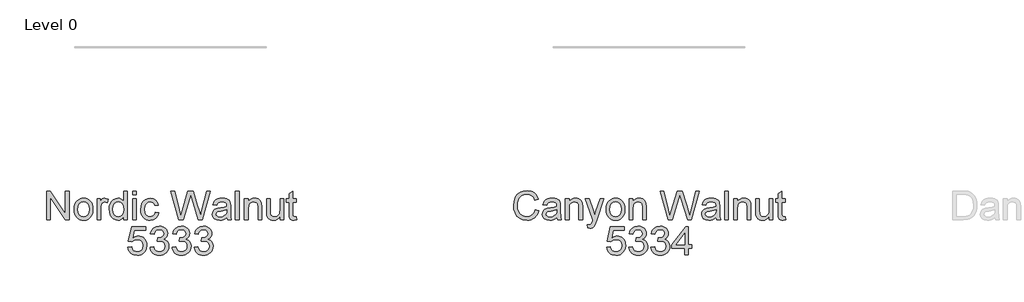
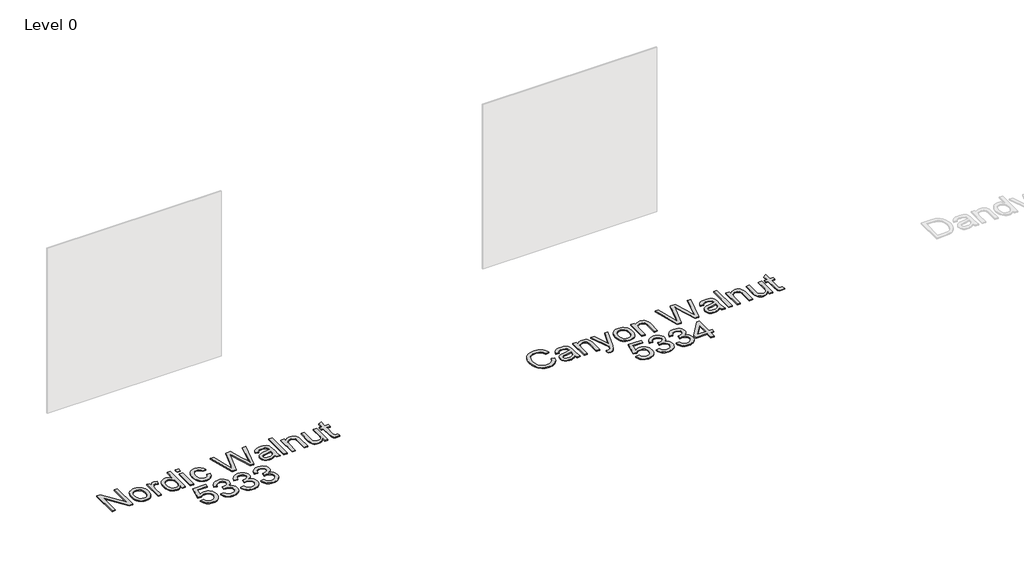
# One storey, part 13 of 16: 2 proxies.
"""IFC4 building model written with IfcOpenShell, lengths in millimetres."""

from ifc_helpers import new_model, si_unit, origin, origin_with_axes, place, context, project, spatial, polyline, outline, extrude, element, save

model = new_model("IFC4")

# Units and contexts
model_context = context("Model", 3, world=origin())
ifc_project = project(units=[si_unit("LENGTHUNIT", "METRE", prefix="MILLI")], contexts=[model_context])

# Site, building, storey
site = spatial("IfcSite", under=ifc_project)
building = spatial("IfcBuilding", under=site)
storey = spatial("IfcBuildingStorey", under=building, Name="Level 0", Elevation=0.0)

# Proxies
placement = place(None, origin())
element("IfcBuildingElementProxy", 1, Name="300mm Arial", ObjectType="300mm Arial", at=placement, inside=storey, context=model_context, shape_type="SweptSolid", body=[
    extrude(outline(polyline([(-743.2482346, -12002.860494), (-743.2482346, -11701.4915635), (-702.9283679, -11701.4915635), (-545.474874, -11940.2469784), (-545.474874, -11701.4915635), (-507.8037576, -11701.4915635), (-507.8037576, -12002.860494), (-548.1236243, -12002.860494), (-705.5771183, -11764.0315027), (-705.5771183, -12002.860494), (-743.2482346, -12002.860494)])), origin_with_axes(), (0.0, 0.0, 1.0), 10.0),
    extrude(outline(polyline([(-456.0059727, -11892.2015898), (-453.9688262, -11863.5389839), (-447.8573865, -11838.8403064), (-437.6716538, -11818.1055575), (-423.411628, -11801.334737), (-409.0550331, -11790.6155754), (-393.2085161, -11782.9590314), (-375.8720771, -11778.3651049), (-357.045716, -11776.8337961), (-336.2626826, -11778.698498), (-317.4708104, -11784.2926036), (-300.6700995, -11793.6161129), (-285.86055, -11806.669026), (-273.7733272, -11823.0098843), (-265.1395966, -11842.1972296), (-259.9593582, -11864.2310619), (-258.2326121, -11889.1113811), (-261.2860327, -11927.1687735), (-270.4462944, -11956.1394806), (-285.4466827, -11977.8353213), (-306.0204833, -11994.0681143), (-330.4570448, -12004.1940662), (-357.045716, -12007.5693835), (-378.1322521, -12005.7115794), (-397.0988682, -12000.1381672), (-413.9455644, -11990.8491468), (-428.6723405, -11977.8445183), (-440.6308046, -11961.3450108), (-449.1725647, -11941.5713536), (-454.2976207, -11918.5235466), (-456.0059727, -11892.2015898)]), holes=[polyline([(-418.3348564, -11892.1280134), (-413.9754548, -11926.2214773), (-400.8972498, -11950.5108861), (-381.2155631, -11965.0514219), (-357.045716, -11969.8982672), (-332.9862335, -11965.0238308), (-313.341335, -11950.4005215), (-300.2631301, -11925.789216), (-295.9037284, -11890.950791), (-300.2907212, -11857.8506085), (-313.4516996, -11833.8922936), (-333.1241893, -11819.3517577), (-357.045716, -11814.5049125), (-381.2155631, -11819.3333636), (-400.8972498, -11833.8187172), (-413.9754548, -11858.0529436), (-418.3348564, -11892.1280134)])]), origin_with_axes(), (0.0, 0.0, 1.0), 10.0),
    extrude(outline(polyline([(-215.8526063, -12002.860494), (-215.8526063, -11781.5426857), (-182.8903795, -11781.5426857), (-182.8903795, -11814.2841833), (-170.7134855, -11795.3014723), (-159.4930846, -11784.1178596), (-148.2358956, -11778.654812), (-135.9486369, -11776.8337961), (-117.1866552, -11779.7400639), (-98.1303678, -11788.4588672), (-110.7119321, -11822.2304343), (-123.9556839, -11816.4362929), (-137.1994357, -11814.5049125), (-148.4474277, -11816.3627165), (-158.4998032, -11821.9361288), (-166.6207983, -11830.8020848), (-172.0746488, -11842.5375205), (-176.6547797, -11863.5803706), (-178.18149, -11886.5362071), (-178.18149, -12002.860494), (-215.8526063, -12002.860494)])), origin_with_axes(), (0.0, 0.0, 1.0), 10.0),
    extrude(outline(polyline([(61.9718765, -12002.860494), (61.9718765, -11967.3230932), (50.7008919, -11984.9308452), (37.0478713, -11997.507811), (21.0128148, -12005.0539904), (2.5957225, -12007.5693835), (-21.7580656, -12003.9273518), (-44.0517145, -11993.0012565), (-62.9240609, -11975.5544529), (-77.0139413, -11952.350296), (-85.7879269, -11924.3268851), (-88.7125887, -11892.422319), (-86.0178531, -11860.9132261), (-77.9336463, -11832.4575538), (-64.4691653, -11808.6739828), (-45.6336071, -11791.181194), (-22.8525146, -11780.4206456), (2.4485697, -11776.8337961), (20.8794576, -11779.3997731), (37.17663, -11787.0977038), (50.9905989, -11798.8975188), (61.9718765, -11813.7691485), (61.9718765, -11701.4915635), (99.6429928, -11701.4915635), (99.6429928, -12002.860494), (61.9718765, -12002.860494)]), holes=[polyline([(-51.0414724, -11892.2751662), (-46.7924354, -11926.350236), (-34.0453243, -11950.5844625), (-15.5224658, -11965.069816), (6.0538132, -11969.8982672), (27.6208952, -11965.2905452), (45.6747041, -11951.4673793), (57.8975834, -11928.1712519), (61.9718765, -11895.1446458), (57.824007, -11859.037028), (45.3803985, -11834.0026582), (26.8667371, -11819.3793489), (4.5087088, -11814.5049125), (-17.2882994, -11819.1862108), (-35.1489702, -11833.230106), (-47.0683469, -11857.3539678), (-51.0414724, -11892.2751662)])]), origin_with_axes(), (0.0, 0.0, 1.0), 10.0),
    extrude(outline(polyline([(156.1496672, -11739.1626798), (156.1496672, -11701.4915635), (193.8207836, -11701.4915635), (193.8207836, -11739.1626798), (156.1496672, -11739.1626798)])), origin_with_axes(), (0.0, 0.0, 1.0), 10.0),
    extrude(outline(polyline([(156.1496672, -12002.860494), (156.1496672, -11781.5426857), (193.8207836, -11781.5426857), (193.8207836, -12002.860494), (156.1496672, -12002.860494)])), origin_with_axes(), (0.0, 0.0, 1.0), 10.0),
    extrude(outline(polyline([(391.5941442, -11922.8093718), (429.2652605, -11927.5182614), (418.7622295, -11961.0231141), (399.0253605, -11986.3425924), (371.9124574, -12002.2626857), (339.2813244, -12007.5693835), (318.1534016, -12005.7184772), (299.2097781, -12000.1657584), (282.450454, -11990.9112269), (267.8754292, -11977.9548829), (256.0779135, -11961.5404481), (247.6511165, -11941.9116444), (242.5950383, -11919.0684718), (240.9096789, -11893.0109302), (243.7883555, -11859.4876834), (252.4243854, -11830.4342028), (266.9557242, -11806.9725286), (287.5203277, -11790.2247008), (312.1224362, -11780.1815223), (338.7662897, -11776.8337961), (370.5972793, -11781.4323211), (396.0455163, -11795.2278959), (414.3016603, -11817.4847566), (424.5563709, -11847.4671392), (386.8852546, -11852.1760288), (380.0518466, -11835.7409006), (369.4108599, -11823.9594797), (355.5509057, -11816.8685543), (339.0605952, -11814.5049125), (314.7160042, -11819.1586197), (295.3930024, -11833.1197414), (282.783847, -11857.1424357), (278.5807952, -11891.9808606), (282.6918765, -11927.2883351), (295.0251204, -11951.3938029), (313.9986343, -11965.2721511), (338.0305257, -11969.8982672), (357.5374685, -11967.0103936), (373.5311382, -11958.3467726), (385.1654063, -11943.6866751), (391.5941442, -11922.8093718)])), origin_with_axes(), (0.0, 0.0, 1.0), 10.0),
    extrude(outline(polyline([(638.5901157, -12002.860494), (556.405278, -11701.4915635), (595.2536167, -11701.4915635), (642.9311233, -11899.5592297), (657.6464031, -11960.7012173), (673.3917525, -11906.622564), (733.1357885, -11701.4915635), (789.1274281, -11701.4915635), (832.5375036, -11850.189466), (851.1339384, -11905.3717653), (864.8375428, -11960.7012173), (879.1113642, -11901.3250633), (927.2303291, -11701.4915635), (966.0786678, -11701.4915635), (883.8202537, -12002.860494), (843.5739634, -12002.860494), (771.3219396, -11770.359073), (761.2419729, -11737.9118811), (749.9112075, -11776.9809489), (684.0603303, -12002.860494), (638.5901157, -12002.860494)])), origin_with_axes(), (0.0, 0.0, 1.0), 10.0),
    extrude(outline(polyline([(1140.3075807, -11974.6071568), (1122.3089541, -11990.0398064), (1103.7768986, -12000.1381672), (1084.2883499, -12005.7115794), (1063.4202438, -12007.5693835), (1031.938742, -12003.0996173), (1008.7161911, -11989.6903186), (994.3963844, -11969.3280501), (989.6231155, -11943.9993748), (991.4257373, -11928.3827841), (996.8336026, -11914.2009331), (1005.1753269, -11902.0608273), (1015.7795254, -11892.5694718), (1042.1566644, -11880.2086368), (1074.7510092, -11874.5432541), (1113.2682541, -11868.5835657), (1140.0868515, -11861.5938078), (1140.3075807, -11853.2060983), (1137.7140127, -11836.3938912), (1129.9333085, -11825.3942195), (1112.5324901, -11817.2272392), (1088.2890666, -11814.5049125), (1065.8482649, -11816.3167313), (1050.1764919, -11821.7521878), (1039.48952, -11831.8045633), (1032.0031214, -11847.4671392), (994.3320051, -11842.7582497), (1000.8711075, -11822.156858), (1010.6291774, -11805.9700502), (1024.5167228, -11793.590821), (1043.4442514, -11784.4121652), (1066.593226, -11778.7283884), (1093.145109, -11776.8337961), (1118.6117401, -11778.5076592), (1138.7992646, -11783.5292485), (1154.0203821, -11791.0800264), (1164.5877924, -11800.3414556), (1171.5959444, -11811.7917827), (1176.1392871, -11825.9092543), (1177.9786971, -11858.8714811), (1177.9786971, -11905.7396473), (1179.8916834, -11971.1858542), (1187.3964761, -12002.860494), (1149.7253598, -12002.860494), (1140.3075807, -11974.6071568)]), holes=[polyline([(1140.3075807, -11899.2649241), (1079.5334751, -11910.8164188), (1047.1230714, -11916.9232599), (1032.4445798, -11926.8560738), (1027.2942318, -11941.3506244), (1030.099332, -11952.5526311), (1038.5146327, -11961.7312869), (1052.3561927, -11967.8565221), (1071.4400712, -11969.8982672), (1091.673581, -11967.64499), (1109.5526459, -11960.8851583), (1124.0471966, -11950.9247533), (1134.1271632, -11939.069756), (1138.5969295, -11926.8560738), (1140.0868515, -11909.933502), (1140.3075807, -11899.2649241)])]), origin_with_axes(), (0.0, 0.0, 1.0), 10.0),
    extrude(outline(polyline([(1229.776482, -12002.860494), (1229.776482, -11701.4915635), (1267.4475983, -11701.4915635), (1267.4475983, -12002.860494), (1229.776482, -12002.860494)])), origin_with_axes(), (0.0, 0.0, 1.0), 10.0),
    extrude(outline(polyline([(1323.9542727, -12002.860494), (1323.9542727, -11781.5426857), (1361.625389, -11781.5426857), (1361.625389, -11812.4447733), (1374.712791, -11796.8649708), (1390.4305493, -11785.7365404), (1408.7786638, -11779.0594822), (1429.7571345, -11776.8337961), (1448.3259783, -11778.6272209), (1465.3313235, -11784.0074951), (1479.5131744, -11792.303234), (1489.6115352, -11802.8430532), (1500.9055124, -11830.5445674), (1502.8920752, -11866.964885), (1502.8920752, -12002.860494), (1465.2209589, -12002.860494), (1465.2209589, -11872.0416565), (1460.8799513, -11838.7115477), (1454.8742778, -11828.7879309), (1445.5392721, -11821.0900002), (1433.5739102, -11816.1511844), (1419.6771679, -11814.5049125), (1397.6134452, -11818.2021265), (1378.8054782, -11829.2937687), (1371.2891892, -11838.3482643), (1365.9204113, -11850.7228949), (1361.625389, -11885.4325611), (1361.625389, -12002.860494), (1323.9542727, -12002.860494)])), origin_with_axes(), (0.0, 0.0, 1.0), 10.0),
    extrude(outline(polyline([(1695.9565463, -12002.860494), (1695.9565463, -11964.8214957), (1682.3265183, -11983.5236966), (1666.4524102, -11996.8824116), (1648.334222, -12004.8976405), (1627.9719536, -12007.5693835), (1609.623839, -12005.6931853), (1592.5449174, -12000.0645908), (1578.2159137, -11991.6033049), (1568.1175529, -11981.2290327), (1556.8971521, -11953.4907302), (1554.6898601, -11918.4683643), (1554.6898601, -11781.5426857), (1592.3609764, -11781.5426857), (1592.3609764, -11900.7364521), (1594.6418448, -11939.1433324), (1600.1324836, -11951.9548229), (1609.5410656, -11961.6944987), (1622.2421915, -11967.8473251), (1637.6104618, -11969.8982672), (1653.861649, -11967.8013398), (1669.0643724, -11961.5105577), (1681.5999514, -11951.605335), (1689.8497051, -11938.6650858), (1694.429836, -11920.9423707), (1695.9565463, -11896.6897502), (1695.9565463, -11781.5426857), (1733.6276626, -11781.5426857), (1733.6276626, -12002.860494), (1695.9565463, -12002.860494)])), origin_with_axes(), (0.0, 0.0, 1.0), 10.0),
    extrude(outline(polyline([(1865.4765696, -11971.4433716), (1870.1854592, -12003.96414), (1842.0056983, -12007.5693835), (1823.9242983, -12006.005885), (1810.4414232, -12001.3153896), (1800.9132795, -11994.0865084), (1794.6960738, -11984.9078526), (1791.2747712, -11969.1441091), (1790.134337, -11942.1599648), (1790.134337, -11819.213802), (1761.8809998, -11819.213802), (1761.8809998, -11781.5426857), (1790.134337, -11781.5426857), (1790.134337, -11727.758338), (1827.8054533, -11705.6118419), (1827.8054533, -11781.5426857), (1865.4765696, -11781.5426857), (1865.4765696, -11819.213802), (1827.8054533, -11819.213802), (1827.8054533, -11941.0563188), (1829.7920161, -11960.4804881), (1836.229951, -11967.3598814), (1849.0690327, -11969.8982672), (1865.4765696, -11971.4433716)])), origin_with_axes(), (0.0, 0.0, 1.0), 10.0),
    extrude(outline(polyline([(106.7063271, -12288.7338254), (144.3774434, -12284.0249358), (151.2936249, -12306.6404815), (163.3601544, -12322.8364863), (180.5218494, -12332.5761621), (202.7235278, -12335.8227207), (229.7260663, -12331.3069693), (249.959576, -12317.7597148), (262.5963226, -12296.7444558), (266.8085714, -12269.8246908), (262.863037, -12244.4776213), (251.0264338, -12225.0902402), (231.2067913, -12212.7845875), (203.312139, -12208.6827032), (185.0376009, -12210.3197781), (170.2395477, -12215.2310027), (149.0863329, -12232.2271509), (111.4152166, -12227.5182614), (144.3774434, -12072.1249066), (290.3530191, -12072.1249066), (290.3530191, -12109.7960229), (174.8380726, -12109.7960229), (158.7248412, -12192.790201), (185.6354092, -12176.4562404), (213.8335641, -12171.0115869), (232.1793793, -12172.6992456), (249.030674, -12177.7622215), (264.387448, -12186.2005148), (278.2497014, -12198.0141254), (289.7253204, -12212.4810848), (297.9221911, -12228.8794248), (302.8403136, -12247.2091452), (304.4796877, -12267.470246), (298.5751817, -12305.1413624), (291.1945492, -12321.9351754), (280.8616636, -12337.3678251), (265.2082847, -12353.1729553), (246.9429437, -12364.4623341), (226.0656404, -12371.2359613), (202.576375, -12373.4938371), (165.5766434, -12367.6904986), (149.8979726, -12360.4363255), (136.1000985, -12350.2804832), (124.619881, -12337.7288093), (115.8941799, -12323.2871418), (106.7063271, -12288.7338254)])), origin_with_axes(), (0.0, 0.0, 1.0), 10.0),
    extrude(outline(polyline([(337.4419145, -12288.7338254), (375.1130308, -12284.0249358), (383.5467255, -12307.6981422), (395.8983635, -12323.6826149), (412.77495, -12332.7876943), (434.7834904, -12335.8227207), (460.6088065, -12331.6472601), (480.5480106, -12319.1208782), (493.2951217, -12300.4324728), (497.5441588, -12277.7709419), (493.3319099, -12256.2590422), (480.6951634, -12238.8122386), (461.5652996, -12227.2515469), (437.8736992, -12223.397983), (411.4597719, -12227.5182614), (415.6536266, -12189.8471451), (421.6868914, -12190.2886035), (444.2564518, -12187.5846708), (464.4347792, -12179.4728728), (478.6718124, -12165.7508744), (483.4174902, -12146.2163404), (479.9777935, -12129.9467592), (469.6587035, -12116.7489926), (453.9133541, -12108.0025982), (434.1948792, -12105.0871334), (414.4396161, -12108.0301893), (398.2895965, -12116.8593572), (386.4989785, -12131.574637), (379.8219203, -12152.1760288), (342.150804, -12147.4671392), (353.2424462, -12113.6403898), (372.9793152, -12088.3852908), (399.9818537, -12072.6583355), (432.870504, -12067.4160171), (456.5529075, -12070.0003881), (478.3039304, -12077.7535011), (496.6428479, -12089.9855775), (510.0889348, -12106.0068384), (518.3386885, -12124.4653175), (521.0886065, -12144.0090485), (518.4766443, -12162.2192072), (510.6407578, -12178.7371088), (497.6913116, -12192.8085951), (479.7386702, -12203.6795081), (503.3199061, -12213.2076518), (520.7943009, -12229.4312477), (531.6100315, -12251.4673793), (535.2152751, -12278.4331295), (533.4126533, -12297.5445992), (528.004788, -12315.1477526), (518.9916791, -12331.2425899), (506.3733267, -12345.829111), (491.0004578, -12357.9324287), (473.7237996, -12366.5776555), (454.5433521, -12371.7647917), (433.4591152, -12373.4938371), (414.4028279, -12372.0177105), (397.0387977, -12367.589331), (381.3670247, -12360.2086985), (367.3875089, -12349.875813), (355.6658688, -12337.1976797), (346.767723, -12322.781304), (340.6930716, -12306.6266859), (337.4419145, -12288.7338254)])), origin_with_axes(), (0.0, 0.0, 1.0), 10.0),
    extrude(outline(polyline([(568.1775018, -12288.7338254), (605.8486182, -12284.0249358), (614.2823129, -12307.6981422), (626.6339509, -12323.6826149), (643.5105374, -12332.7876943), (665.5190778, -12335.8227207), (691.3443938, -12331.6472601), (711.283598, -12319.1208782), (724.0307091, -12300.4324728), (728.2797461, -12277.7709419), (724.0674973, -12256.2590422), (711.4307508, -12238.8122386), (692.300887, -12227.2515469), (668.6092865, -12223.397983), (642.1953593, -12227.5182614), (646.389214, -12189.8471451), (652.4224787, -12190.2886035), (674.9920391, -12187.5846708), (695.1703666, -12179.4728728), (709.4073998, -12165.7508744), (714.1530775, -12146.2163404), (710.7133809, -12129.9467592), (700.3942909, -12116.7489926), (684.6489415, -12108.0025982), (664.9304666, -12105.0871334), (645.1752034, -12108.0301893), (629.0251838, -12116.8593572), (617.2345659, -12131.574637), (610.5575077, -12152.1760288), (572.8863914, -12147.4671392), (583.9780335, -12113.6403898), (603.7149026, -12088.3852908), (630.717441, -12072.6583355), (663.6060914, -12067.4160171), (687.2884948, -12070.0003881), (709.0395178, -12077.7535011), (727.3784353, -12089.9855775), (740.8245222, -12106.0068384), (749.0742759, -12124.4653175), (751.8241938, -12144.0090485), (749.2122317, -12162.2192072), (741.3763452, -12178.7371088), (728.4268989, -12192.8085951), (710.4742576, -12203.6795081), (734.0554935, -12213.2076518), (751.5298882, -12229.4312477), (762.3456189, -12251.4673793), (765.9508625, -12278.4331295), (764.1482407, -12297.5445992), (758.7403753, -12315.1477526), (749.7272665, -12331.2425899), (737.108914, -12345.829111), (721.7360452, -12357.9324287), (704.459387, -12366.5776555), (685.2789394, -12371.7647917), (664.1947026, -12373.4938371), (645.1384152, -12372.0177105), (627.7743851, -12367.589331), (612.1026121, -12360.2086985), (598.1230963, -12349.875813), (586.4014562, -12337.1976797), (577.5033104, -12322.781304), (571.428659, -12306.6266859), (568.1775018, -12288.7338254)])), origin_with_axes(), (0.0, 0.0, 1.0), 10.0),
    extrude(outline(polyline([(798.9130892, -12288.7338254), (836.5842055, -12284.0249358), (845.0179003, -12307.6981422), (857.3695383, -12323.6826149), (874.2461248, -12332.7876943), (896.2546651, -12335.8227207), (922.0799812, -12331.6472601), (942.0191853, -12319.1208782), (954.7662965, -12300.4324728), (959.0153335, -12277.7709419), (954.8030847, -12256.2590422), (942.1663381, -12238.8122386), (923.0364744, -12227.2515469), (899.3448739, -12223.397983), (872.9309467, -12227.5182614), (877.1248014, -12189.8471451), (883.1580661, -12190.2886035), (905.7276265, -12187.5846708), (925.905954, -12179.4728728), (940.1429872, -12165.7508744), (944.8886649, -12146.2163404), (941.4489683, -12129.9467592), (931.1298783, -12116.7489926), (915.3845289, -12108.0025982), (895.666054, -12105.0871334), (875.9107908, -12108.0301893), (859.7607712, -12116.8593572), (847.9701533, -12131.574637), (841.2930951, -12152.1760288), (803.6219788, -12147.4671392), (814.7136209, -12113.6403898), (834.45049, -12088.3852908), (861.4530284, -12072.6583355), (894.3416788, -12067.4160171), (918.0240822, -12070.0003881), (939.7751052, -12077.7535011), (958.1140226, -12089.9855775), (971.5601096, -12106.0068384), (979.8098633, -12124.4653175), (982.5597812, -12144.0090485), (979.947819, -12162.2192072), (972.1119325, -12178.7371088), (959.1624863, -12192.8085951), (941.209845, -12203.6795081), (964.7910808, -12213.2076518), (982.2654756, -12229.4312477), (993.0812063, -12251.4673793), (996.6864498, -12278.4331295), (994.8838281, -12297.5445992), (989.4759627, -12315.1477526), (980.4628538, -12331.2425899), (967.8445014, -12345.829111), (952.4716325, -12357.9324287), (935.1949743, -12366.5776555), (916.0145268, -12371.7647917), (894.93029, -12373.4938371), (875.8740026, -12372.0177105), (858.5099724, -12367.589331), (842.8381994, -12360.2086985), (828.8586836, -12349.875813), (817.1370436, -12337.1976797), (808.2388978, -12322.781304), (802.1642464, -12306.6266859), (798.9130892, -12288.7338254)])), origin_with_axes(), (0.0, 0.0, 1.0), 10.0),
])
element("IfcBuildingElementProxy", 2, Name="300mm Arial", ObjectType="300mm Arial", at=placement, inside=storey, context=model_context, shape_type="SweptSolid", body=[
    extrude(outline(polyline([(4360.3473353, -11895.733257), (4398.0184516, -11905.4453417), (4390.5642427, -11928.872527), (4380.6360273, -11949.3428607), (4368.2338056, -11966.856343), (4353.3575774, -11981.4129737), (4336.3430351, -11992.856403), (4317.525871, -12001.0302811), (4296.9060852, -12005.9346079), (4274.4836776, -12007.5693835), (4230.7884936, -12002.6213707), (4196.0880244, -11987.7773322), (4169.4901562, -11963.5523028), (4150.102775, -11930.4613173), (4138.2661718, -11891.5577963), (4134.3206374, -11849.8951604), (4138.7812066, -11805.9516561), (4152.1629142, -11768.0046283), (4173.7667844, -11737.2588905), (4202.8938413, -11714.9192564), (4237.4379607, -11701.3168196), (4275.293018, -11696.782674), (4316.596969, -11702.6503918), (4334.5657052, -11709.9850391), (4350.7456152, -11720.2535453), (4364.8699846, -11733.1845974), (4376.6720988, -11748.5068825), (4393.309562, -11786.3251516), (4355.6384457, -11795.3014723), (4342.5786349, -11767.8298843), (4324.7363581, -11748.9851291), (4301.8908862, -11738.086625), (4273.82149, -11734.4537903), (4241.4662685, -11738.4820981), (4214.8867944, -11750.5670217), (4194.717664, -11769.439368), (4181.5934738, -11793.8299443), (4174.3921838, -11821.4026999), (4171.9917538, -11849.821584), (4174.8336422, -11884.6232207), (4183.3593074, -11914.7159679), (4197.8906462, -11938.9501944), (4218.7495553, -11956.1762688), (4243.756334, -11966.4677676), (4270.7312813, -11969.8982672), (4302.1759948, -11965.2261659), (4328.3783899, -11951.2098619), (4348.1612442, -11927.996508), (4360.3473353, -11895.733257)])), origin_with_axes(), (0.0, 0.0, 1.0), 10.0),
    extrude(outline(polyline([(4586.3740331, -11974.6071568), (4568.3754065, -11990.0398064), (4549.843351, -12000.1381672), (4530.3548023, -12005.7115794), (4509.4866961, -12007.5693835), (4478.0051944, -12003.0996173), (4454.7826434, -11989.6903186), (4440.4628368, -11969.3280501), (4435.6895679, -11943.9993748), (4437.4921897, -11928.3827841), (4442.900055, -11914.2009331), (4451.2417792, -11902.0608273), (4461.8459778, -11892.5694718), (4488.2231168, -11880.2086368), (4520.8174616, -11874.5432541), (4559.3347065, -11868.5835657), (4586.1533039, -11861.5938078), (4586.3740331, -11853.2060983), (4583.7804651, -11836.3938912), (4575.9997609, -11825.3942195), (4558.5989425, -11817.2272392), (4534.355519, -11814.5049125), (4511.9147173, -11816.3167313), (4496.2429443, -11821.7521878), (4485.5559723, -11831.8045633), (4478.0695737, -11847.4671392), (4440.3984574, -11842.7582497), (4446.9375599, -11822.156858), (4456.6956298, -11805.9700502), (4470.5831751, -11793.590821), (4489.5107038, -11784.4121652), (4512.6596783, -11778.7283884), (4539.2115613, -11776.8337961), (4564.6781925, -11778.5076592), (4584.8657169, -11783.5292485), (4600.0868345, -11791.0800264), (4610.6542448, -11800.3414556), (4617.6623968, -11811.7917827), (4622.2057394, -11825.9092543), (4624.0451494, -11858.8714811), (4624.0451494, -11905.7396473), (4625.9581358, -11971.1858542), (4633.4629285, -12002.860494), (4595.7918122, -12002.860494), (4586.3740331, -11974.6071568)]), holes=[polyline([(4586.3740331, -11899.2649241), (4525.5999275, -11910.8164188), (4493.1895237, -11916.9232599), (4478.5110321, -11926.8560738), (4473.3606842, -11941.3506244), (4476.1657844, -11952.5526311), (4484.5810851, -11961.7312869), (4498.4226451, -11967.8565221), (4517.5065236, -11969.8982672), (4537.7400334, -11967.64499), (4555.6190983, -11960.8851583), (4570.1136489, -11950.9247533), (4580.1936156, -11939.069756), (4584.6633818, -11926.8560738), (4586.1533039, -11909.933502), (4586.3740331, -11899.2649241)])]), origin_with_axes(), (0.0, 0.0, 1.0), 10.0),
    extrude(outline(polyline([(4675.8429343, -12002.860494), (4675.8429343, -11781.5426857), (4713.5140507, -11781.5426857), (4713.5140507, -11812.4447733), (4726.6014526, -11796.8649708), (4742.3192109, -11785.7365404), (4760.6673254, -11779.0594822), (4781.6457962, -11776.8337961), (4800.2146399, -11778.6272209), (4817.2199851, -11784.0074951), (4831.401836, -11792.303234), (4841.5001968, -11802.8430532), (4852.794174, -11830.5445674), (4854.7807368, -11866.964885), (4854.7807368, -12002.860494), (4817.1096205, -12002.860494), (4817.1096205, -11872.0416565), (4812.7686129, -11838.7115477), (4806.7629394, -11828.7879309), (4797.4279338, -11821.0900002), (4785.4625719, -11816.1511844), (4771.5658295, -11814.5049125), (4749.5021068, -11818.2021265), (4730.6941398, -11829.2937687), (4723.1778508, -11838.3482643), (4717.8090729, -11850.7228949), (4713.5140507, -11885.4325611), (4713.5140507, -12002.860494), (4675.8429343, -12002.860494)])), origin_with_axes(), (0.0, 0.0, 1.0), 10.0),
    extrude(outline(polyline([(4906.5785217, -12087.6205057), (4901.8696322, -12051.3473409), (4920.9994959, -12054.6582789), (4938.8785609, -12050.5012124), (4949.8414444, -12038.9129295), (4960.1421402, -12011.1746271), (4963.0851962, -12002.0511536), (4883.034074, -11781.5426857), (4922.7653295, -11781.5426857), (4965.2189118, -11904.4152721), (4980.007768, -11953.5643066), (4994.7966242, -11910.1542312), (5038.4274288, -11781.5426857), (5077.8643787, -11781.5426857), (5000.8298889, -12008.1579947), (4980.8171083, -12057.3070293), (4970.5715948, -12072.9971964), (4958.9649178, -12083.8681093), (4945.4820427, -12090.2140737), (4929.6079346, -12092.3293952), (4906.5785217, -12087.6205057)])), origin_with_axes(), (0.0, 0.0, 1.0), 10.0),
    extrude(outline(polyline([(5099.6429928, -11892.2015898), (5101.6801393, -11863.5389839), (5107.791579, -11838.8403064), (5117.9773117, -11818.1055575), (5132.2373376, -11801.334737), (5146.5939324, -11790.6155754), (5162.4404494, -11782.9590314), (5179.7768884, -11778.3651049), (5198.6032495, -11776.8337961), (5219.386283, -11778.698498), (5238.1781551, -11784.2926036), (5254.978866, -11793.6161129), (5269.7884156, -11806.669026), (5281.8756384, -11823.0098843), (5290.5093689, -11842.1972296), (5295.6896073, -11864.2310619), (5297.4163534, -11889.1113811), (5294.3629328, -11927.1687735), (5285.2026712, -11956.1394806), (5270.2022828, -11977.8353213), (5249.6284822, -11994.0681143), (5225.1919207, -12004.1940662), (5198.6032495, -12007.5693835), (5177.5167134, -12005.7115794), (5158.5500973, -12000.1381672), (5141.7034011, -11990.8491468), (5126.976625, -11977.8445183), (5115.0181609, -11961.3450108), (5106.4764008, -11941.5713536), (5101.3513448, -11918.5235466), (5099.6429928, -11892.2015898)]), holes=[polyline([(5137.3141091, -11892.1280134), (5141.6735107, -11926.2214773), (5154.7517157, -11950.5108861), (5174.4334024, -11965.0514219), (5198.6032495, -11969.8982672), (5222.662732, -11965.0238308), (5242.3076305, -11950.4005215), (5255.3858354, -11925.789216), (5259.7452371, -11890.950791), (5255.3582443, -11857.8506085), (5242.1972659, -11833.8922936), (5222.5247762, -11819.3517577), (5198.6032495, -11814.5049125), (5174.4334024, -11819.3333636), (5154.7517157, -11833.8187172), (5141.6735107, -11858.0529436), (5137.3141091, -11892.1280134)])]), origin_with_axes(), (0.0, 0.0, 1.0), 10.0),
    extrude(outline(polyline([(5339.7963592, -12002.860494), (5339.7963592, -11781.5426857), (5377.4674755, -11781.5426857), (5377.4674755, -11812.4447733), (5390.5548775, -11796.8649708), (5406.2726358, -11785.7365404), (5424.6207503, -11779.0594822), (5445.5992211, -11776.8337961), (5464.1680648, -11778.6272209), (5481.17341, -11784.0074951), (5495.3552609, -11792.303234), (5505.4536217, -11802.8430532), (5516.7475989, -11830.5445674), (5518.7341617, -11866.964885), (5518.7341617, -12002.860494), (5481.0630454, -12002.860494), (5481.0630454, -11872.0416565), (5476.7220378, -11838.7115477), (5470.7163643, -11828.7879309), (5461.3813586, -11821.0900002), (5449.4159968, -11816.1511844), (5435.5192544, -11814.5049125), (5413.4555317, -11818.2021265), (5394.6475647, -11829.2937687), (5387.1312757, -11838.3482643), (5381.7624978, -11850.7228949), (5377.4674755, -11885.4325611), (5377.4674755, -12002.860494), (5339.7963592, -12002.860494)])), origin_with_axes(), (0.0, 0.0, 1.0), 10.0),
    extrude(outline(polyline([(5746.8945751, -12002.860494), (5664.7097374, -11701.4915635), (5703.5580761, -11701.4915635), (5751.2355826, -11899.5592297), (5765.9508625, -11960.7012173), (5781.6962118, -11906.622564), (5841.4402479, -11701.4915635), (5897.4318875, -11701.4915635), (5940.841963, -11850.189466), (5959.4383978, -11905.3717653), (5973.1420021, -11960.7012173), (5987.4158235, -11901.3250633), (6035.5347885, -11701.4915635), (6074.3831272, -11701.4915635), (5992.1247131, -12002.860494), (5951.8784228, -12002.860494), (5879.626399, -11770.359073), (5869.5464323, -11737.9118811), (5858.2156668, -11776.9809489), (5792.3647897, -12002.860494), (5746.8945751, -12002.860494)])), origin_with_axes(), (0.0, 0.0, 1.0), 10.0),
    extrude(outline(polyline([(6248.6120401, -11974.6071568), (6230.6134135, -11990.0398064), (6212.081358, -12000.1381672), (6192.5928093, -12005.7115794), (6171.7247031, -12007.5693835), (6140.2432014, -12003.0996173), (6117.0206504, -11989.6903186), (6102.7008438, -11969.3280501), (6097.9275749, -11943.9993748), (6099.7301967, -11928.3827841), (6105.138062, -11914.2009331), (6113.4797862, -11902.0608273), (6124.0839848, -11892.5694718), (6150.4611238, -11880.2086368), (6183.0554686, -11874.5432541), (6221.5727135, -11868.5835657), (6248.3913109, -11861.5938078), (6248.6120401, -11853.2060983), (6246.0184721, -11836.3938912), (6238.2377679, -11825.3942195), (6220.8369495, -11817.2272392), (6196.593526, -11814.5049125), (6174.1527243, -11816.3167313), (6158.4809513, -11821.7521878), (6147.7939793, -11831.8045633), (6140.3075807, -11847.4671392), (6102.6364644, -11842.7582497), (6109.1755669, -11822.156858), (6118.9336368, -11805.9700502), (6132.8211821, -11793.590821), (6151.7487108, -11784.4121652), (6174.8976853, -11778.7283884), (6201.4495683, -11776.8337961), (6226.9161995, -11778.5076592), (6247.1037239, -11783.5292485), (6262.3248415, -11791.0800264), (6272.8922518, -11800.3414556), (6279.9004038, -11811.7917827), (6284.4437465, -11825.9092543), (6286.2831564, -11858.8714811), (6286.2831564, -11905.7396473), (6288.1961428, -11971.1858542), (6295.7009355, -12002.860494), (6258.0298192, -12002.860494), (6248.6120401, -11974.6071568)]), holes=[polyline([(6248.6120401, -11899.2649241), (6187.8379345, -11910.8164188), (6155.4275307, -11916.9232599), (6140.7490391, -11926.8560738), (6135.5986912, -11941.3506244), (6138.4037914, -11952.5526311), (6146.8190921, -11961.7312869), (6160.6606521, -11967.8565221), (6179.7445306, -11969.8982672), (6199.9780404, -11967.64499), (6217.8571053, -11960.8851583), (6232.3516559, -11950.9247533), (6242.4316226, -11939.069756), (6246.9013888, -11926.8560738), (6248.3913109, -11909.933502), (6248.6120401, -11899.2649241)])]), origin_with_axes(), (0.0, 0.0, 1.0), 10.0),
    extrude(outline(polyline([(6338.0809414, -12002.860494), (6338.0809414, -11701.4915635), (6375.7520577, -11701.4915635), (6375.7520577, -12002.860494), (6338.0809414, -12002.860494)])), origin_with_axes(), (0.0, 0.0, 1.0), 10.0),
    extrude(outline(polyline([(6432.2587321, -12002.860494), (6432.2587321, -11781.5426857), (6469.9298484, -11781.5426857), (6469.9298484, -11812.4447733), (6483.0172504, -11796.8649708), (6498.7350086, -11785.7365404), (6517.0831232, -11779.0594822), (6538.0615939, -11776.8337961), (6556.6304376, -11778.6272209), (6573.6357829, -11784.0074951), (6587.8176338, -11792.303234), (6597.9159945, -11802.8430532), (6609.2099718, -11830.5445674), (6611.1965346, -11866.964885), (6611.1965346, -12002.860494), (6573.5254183, -12002.860494), (6573.5254183, -11872.0416565), (6569.1844107, -11838.7115477), (6563.1787372, -11828.7879309), (6553.8437315, -11821.0900002), (6541.8783696, -11816.1511844), (6527.9816273, -11814.5049125), (6505.9179046, -11818.2021265), (6487.1099376, -11829.2937687), (6479.5936486, -11838.3482643), (6474.2248707, -11850.7228949), (6469.9298484, -11885.4325611), (6469.9298484, -12002.860494), (6432.2587321, -12002.860494)])), origin_with_axes(), (0.0, 0.0, 1.0), 10.0),
    extrude(outline(polyline([(6804.2610056, -12002.860494), (6804.2610056, -11964.8214957), (6790.6309777, -11983.5236966), (6774.7568696, -11996.8824116), (6756.6386814, -12004.8976405), (6736.2764129, -12007.5693835), (6717.9282984, -12005.6931853), (6700.8493768, -12000.0645908), (6686.5203731, -11991.6033049), (6676.4220123, -11981.2290327), (6665.2016115, -11953.4907302), (6662.9943195, -11918.4683643), (6662.9943195, -11781.5426857), (6700.6654358, -11781.5426857), (6700.6654358, -11900.7364521), (6702.9463042, -11939.1433324), (6708.4369429, -11951.9548229), (6717.845525, -11961.6944987), (6730.5466509, -11967.8473251), (6745.9149212, -11969.8982672), (6762.1661083, -11967.8013398), (6777.3688318, -11961.5105577), (6789.9044108, -11951.605335), (6798.1541645, -11938.6650858), (6802.7342954, -11920.9423707), (6804.2610056, -11896.6897502), (6804.2610056, -11781.5426857), (6841.9321219, -11781.5426857), (6841.9321219, -12002.860494), (6804.2610056, -12002.860494)])), origin_with_axes(), (0.0, 0.0, 1.0), 10.0),
    extrude(outline(polyline([(6973.781029, -11971.4433716), (6978.4899186, -12003.96414), (6950.3101577, -12007.5693835), (6932.2287577, -12006.005885), (6918.7458825, -12001.3153896), (6909.2177389, -11994.0865084), (6903.0005331, -11984.9078526), (6899.5792306, -11969.1441091), (6898.4387964, -11942.1599648), (6898.4387964, -11819.213802), (6870.1854592, -11819.213802), (6870.1854592, -11781.5426857), (6898.4387964, -11781.5426857), (6898.4387964, -11727.758338), (6936.1099127, -11705.6118419), (6936.1099127, -11781.5426857), (6973.781029, -11781.5426857), (6973.781029, -11819.213802), (6936.1099127, -11819.213802), (6936.1099127, -11941.0563188), (6938.0964755, -11960.4804881), (6944.5344104, -11967.3598814), (6957.373492, -11969.8982672), (6973.781029, -11971.4433716)])), origin_with_axes(), (0.0, 0.0, 1.0), 10.0),
    extrude(outline(polyline([(5106.7063271, -12288.7338254), (5144.3774434, -12284.0249358), (5151.2936249, -12306.6404815), (5163.3601544, -12322.8364863), (5180.5218494, -12332.5761621), (5202.7235278, -12335.8227207), (5229.7260663, -12331.3069693), (5249.959576, -12317.7597148), (5262.5963226, -12296.7444558), (5266.8085714, -12269.8246908), (5262.863037, -12244.4776213), (5251.0264338, -12225.0902402), (5231.2067913, -12212.7845875), (5203.312139, -12208.6827032), (5185.0376009, -12210.3197781), (5170.2395477, -12215.2310027), (5149.0863329, -12232.2271509), (5111.4152166, -12227.5182614), (5144.3774434, -12072.1249066), (5290.3530191, -12072.1249066), (5290.3530191, -12109.7960229), (5174.8380726, -12109.7960229), (5158.7248412, -12192.790201), (5185.6354092, -12176.4562404), (5213.8335641, -12171.0115869), (5232.1793793, -12172.6992456), (5249.030674, -12177.7622215), (5264.387448, -12186.2005148), (5278.2497014, -12198.0141254), (5289.7253204, -12212.4810848), (5297.9221911, -12228.8794248), (5302.8403136, -12247.2091452), (5304.4796877, -12267.470246), (5298.5751817, -12305.1413624), (5291.1945492, -12321.9351754), (5280.8616636, -12337.3678251), (5265.2082847, -12353.1729553), (5246.9429437, -12364.4623341), (5226.0656404, -12371.2359613), (5202.576375, -12373.4938371), (5165.5766434, -12367.6904986), (5149.8979726, -12360.4363255), (5136.1000985, -12350.2804832), (5124.619881, -12337.7288093), (5115.8941799, -12323.2871418), (5106.7063271, -12288.7338254)])), origin_with_axes(), (0.0, 0.0, 1.0), 10.0),
    extrude(outline(polyline([(5337.4419145, -12288.7338254), (5375.1130308, -12284.0249358), (5383.5467255, -12307.6981422), (5395.8983635, -12323.6826149), (5412.77495, -12332.7876943), (5434.7834904, -12335.8227207), (5460.6088065, -12331.6472601), (5480.5480106, -12319.1208782), (5493.2951217, -12300.4324728), (5497.5441588, -12277.7709419), (5493.3319099, -12256.2590422), (5480.6951634, -12238.8122386), (5461.5652996, -12227.2515469), (5437.8736992, -12223.397983), (5411.4597719, -12227.5182614), (5415.6536266, -12189.8471451), (5421.6868914, -12190.2886035), (5444.2564518, -12187.5846708), (5464.4347792, -12179.4728728), (5478.6718124, -12165.7508744), (5483.4174902, -12146.2163404), (5479.9777935, -12129.9467592), (5469.6587035, -12116.7489926), (5453.9133541, -12108.0025982), (5434.1948792, -12105.0871334), (5414.4396161, -12108.0301893), (5398.2895965, -12116.8593572), (5386.4989785, -12131.574637), (5379.8219203, -12152.1760288), (5342.150804, -12147.4671392), (5353.2424462, -12113.6403898), (5372.9793152, -12088.3852908), (5399.9818537, -12072.6583355), (5432.870504, -12067.4160171), (5456.5529075, -12070.0003881), (5478.3039304, -12077.7535011), (5496.6428479, -12089.9855775), (5510.0889348, -12106.0068384), (5518.3386885, -12124.4653175), (5521.0886065, -12144.0090485), (5518.4766443, -12162.2192072), (5510.6407578, -12178.7371088), (5497.6913116, -12192.8085951), (5479.7386702, -12203.6795081), (5503.3199061, -12213.2076518), (5520.7943009, -12229.4312477), (5531.6100315, -12251.4673793), (5535.2152751, -12278.4331295), (5533.4126533, -12297.5445992), (5528.004788, -12315.1477526), (5518.9916791, -12331.2425899), (5506.3733267, -12345.829111), (5491.0004578, -12357.9324287), (5473.7237996, -12366.5776555), (5454.5433521, -12371.7647917), (5433.4591152, -12373.4938371), (5414.4028279, -12372.0177105), (5397.0387977, -12367.589331), (5381.3670247, -12360.2086985), (5367.3875089, -12349.875813), (5355.6658688, -12337.1976797), (5346.767723, -12322.781304), (5340.6930716, -12306.6266859), (5337.4419145, -12288.7338254)])), origin_with_axes(), (0.0, 0.0, 1.0), 10.0),
    extrude(outline(polyline([(5568.1775018, -12288.7338254), (5605.8486182, -12284.0249358), (5614.2823129, -12307.6981422), (5626.6339509, -12323.6826149), (5643.5105374, -12332.7876943), (5665.5190778, -12335.8227207), (5691.3443938, -12331.6472601), (5711.283598, -12319.1208782), (5724.0307091, -12300.4324728), (5728.2797461, -12277.7709419), (5724.0674973, -12256.2590422), (5711.4307508, -12238.8122386), (5692.300887, -12227.2515469), (5668.6092865, -12223.397983), (5642.1953593, -12227.5182614), (5646.389214, -12189.8471451), (5652.4224787, -12190.2886035), (5674.9920391, -12187.5846708), (5695.1703666, -12179.4728728), (5709.4073998, -12165.7508744), (5714.1530775, -12146.2163404), (5710.7133809, -12129.9467592), (5700.3942909, -12116.7489926), (5684.6489415, -12108.0025982), (5664.9304666, -12105.0871334), (5645.1752034, -12108.0301893), (5629.0251838, -12116.8593572), (5617.2345659, -12131.574637), (5610.5575077, -12152.1760288), (5572.8863914, -12147.4671392), (5583.9780335, -12113.6403898), (5603.7149026, -12088.3852908), (5630.717441, -12072.6583355), (5663.6060914, -12067.4160171), (5687.2884948, -12070.0003881), (5709.0395178, -12077.7535011), (5727.3784353, -12089.9855775), (5740.8245222, -12106.0068384), (5749.0742759, -12124.4653175), (5751.8241938, -12144.0090485), (5749.2122317, -12162.2192072), (5741.3763452, -12178.7371088), (5728.4268989, -12192.8085951), (5710.4742576, -12203.6795081), (5734.0554935, -12213.2076518), (5751.5298882, -12229.4312477), (5762.3456189, -12251.4673793), (5765.9508625, -12278.4331295), (5764.1482407, -12297.5445992), (5758.7403753, -12315.1477526), (5749.7272665, -12331.2425899), (5737.108914, -12345.829111), (5721.7360452, -12357.9324287), (5704.459387, -12366.5776555), (5685.2789394, -12371.7647917), (5664.1947026, -12373.4938371), (5645.1384152, -12372.0177105), (5627.7743851, -12367.589331), (5612.1026121, -12360.2086985), (5598.1230963, -12349.875813), (5586.4014562, -12337.1976797), (5577.5033104, -12322.781304), (5571.428659, -12306.6266859), (5568.1775018, -12288.7338254)])), origin_with_axes(), (0.0, 0.0, 1.0), 10.0),
    extrude(outline(polyline([(5921.3442172, -12368.7849475), (5921.3442172, -12298.1516044), (5784.7864206, -12298.1516044), (5784.7864206, -12260.4804881), (5930.7619963, -12072.1249066), (5959.0153335, -12072.1249066), (5959.0153335, -12260.4804881), (5996.6864498, -12260.4804881), (5996.6864498, -12298.1516044), (5959.0153335, -12298.1516044), (5959.0153335, -12368.7849475), (5921.3442172, -12368.7849475)]), holes=[polyline([(5921.3442172, -12260.4804881), (5921.3442172, -12144.0826249), (5831.139552, -12260.4804881), (5921.3442172, -12260.4804881)])]), origin_with_axes(), (0.0, 0.0, 1.0), 10.0),
])

save(model, "model.ifc")
